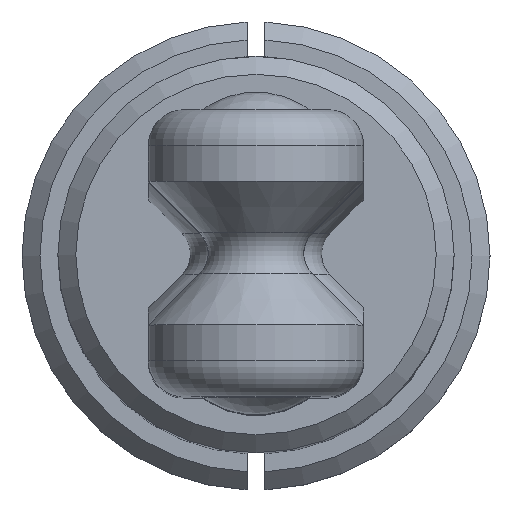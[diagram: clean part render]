
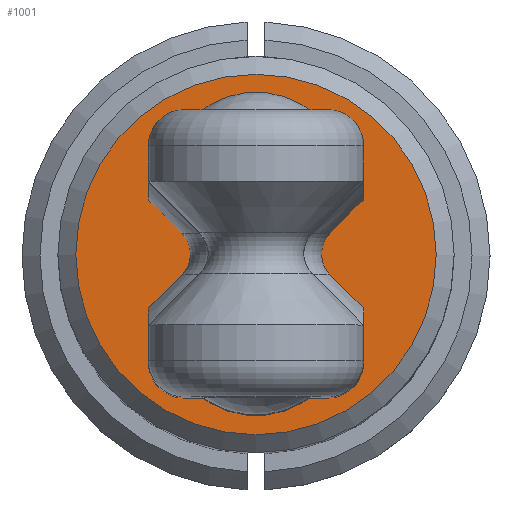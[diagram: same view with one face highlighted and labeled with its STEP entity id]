
A CAD part, top view. The second image highlights one B-rep face of the part: STEP entity #1001.
In plain terms, the highlighted planar face has unit normal (0, 0, 1).
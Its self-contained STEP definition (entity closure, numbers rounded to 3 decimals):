
#15=FACE_BOUND('',#308,.T.);
#87=LINE('',#1651,#155);
#88=LINE('',#1653,#156);
#89=LINE('',#1657,#157);
#90=LINE('',#1661,#158);
#91=LINE('',#1663,#159);
#92=LINE('',#1667,#160);
#93=LINE('',#1669,#161);
#94=LINE('',#1673,#162);
#95=LINE('',#1677,#163);
#96=LINE('',#1678,#164);
#155=VECTOR('',#1291,10.);
#156=VECTOR('',#1292,10.);
#157=VECTOR('',#1295,10.);
#158=VECTOR('',#1298,10.);
#159=VECTOR('',#1299,10.);
#160=VECTOR('',#1302,10.);
#161=VECTOR('',#1303,10.);
#162=VECTOR('',#1306,10.);
#163=VECTOR('',#1309,10.);
#164=VECTOR('',#1310,10.);
#206=PLANE('',#1103);
#244=FACE_OUTER_BOUND('',#307,.T.);
#307=EDGE_LOOP('',(#764));
#308=EDGE_LOOP('',(#765,#766,#767,#768,#769,#770,#771,#772,#773,#774,#775,
#776,#777,#778,#779,#780));
#379=CIRCLE('',#1102,5.02);
#380=CIRCLE('',#1104,0.8);
#381=CIRCLE('',#1105,1.);
#382=CIRCLE('',#1106,1.);
#383=CIRCLE('',#1107,0.8);
#384=CIRCLE('',#1108,1.);
#385=CIRCLE('',#1109,1.);
#468=VERTEX_POINT('',#1643);
#469=VERTEX_POINT('',#1647);
#470=VERTEX_POINT('',#1648);
#471=VERTEX_POINT('',#1650);
#472=VERTEX_POINT('',#1652);
#473=VERTEX_POINT('',#1654);
#474=VERTEX_POINT('',#1656);
#475=VERTEX_POINT('',#1658);
#476=VERTEX_POINT('',#1660);
#477=VERTEX_POINT('',#1662);
#478=VERTEX_POINT('',#1664);
#479=VERTEX_POINT('',#1666);
#480=VERTEX_POINT('',#1668);
#481=VERTEX_POINT('',#1670);
#482=VERTEX_POINT('',#1672);
#483=VERTEX_POINT('',#1674);
#484=VERTEX_POINT('',#1676);
#579=EDGE_CURVE('',#468,#468,#379,.T.);
#581=EDGE_CURVE('',#469,#470,#380,.T.);
#582=EDGE_CURVE('',#470,#471,#87,.T.);
#583=EDGE_CURVE('',#471,#472,#88,.T.);
#584=EDGE_CURVE('',#473,#472,#381,.F.);
#585=EDGE_CURVE('',#473,#474,#89,.T.);
#586=EDGE_CURVE('',#475,#474,#382,.F.);
#587=EDGE_CURVE('',#475,#476,#90,.T.);
#588=EDGE_CURVE('',#476,#477,#91,.T.);
#589=EDGE_CURVE('',#477,#478,#383,.T.);
#590=EDGE_CURVE('',#478,#479,#92,.T.);
#591=EDGE_CURVE('',#479,#480,#93,.T.);
#592=EDGE_CURVE('',#481,#480,#384,.F.);
#593=EDGE_CURVE('',#481,#482,#94,.T.);
#594=EDGE_CURVE('',#483,#482,#385,.F.);
#595=EDGE_CURVE('',#483,#484,#95,.T.);
#596=EDGE_CURVE('',#484,#469,#96,.T.);
#764=ORIENTED_EDGE('',*,*,#579,.F.);
#765=ORIENTED_EDGE('',*,*,#581,.T.);
#766=ORIENTED_EDGE('',*,*,#582,.T.);
#767=ORIENTED_EDGE('',*,*,#583,.T.);
#768=ORIENTED_EDGE('',*,*,#584,.F.);
#769=ORIENTED_EDGE('',*,*,#585,.T.);
#770=ORIENTED_EDGE('',*,*,#586,.F.);
#771=ORIENTED_EDGE('',*,*,#587,.T.);
#772=ORIENTED_EDGE('',*,*,#588,.T.);
#773=ORIENTED_EDGE('',*,*,#589,.T.);
#774=ORIENTED_EDGE('',*,*,#590,.T.);
#775=ORIENTED_EDGE('',*,*,#591,.T.);
#776=ORIENTED_EDGE('',*,*,#592,.F.);
#777=ORIENTED_EDGE('',*,*,#593,.T.);
#778=ORIENTED_EDGE('',*,*,#594,.F.);
#779=ORIENTED_EDGE('',*,*,#595,.T.);
#780=ORIENTED_EDGE('',*,*,#596,.T.);
#1001=ADVANCED_FACE('',(#244,#15),#206,.T.);
#1102=AXIS2_PLACEMENT_3D('',#1644,#1284,#1285);
#1103=AXIS2_PLACEMENT_3D('',#1646,#1287,#1288);
#1104=AXIS2_PLACEMENT_3D('',#1649,#1289,#1290);
#1105=AXIS2_PLACEMENT_3D('',#1655,#1293,#1294);
#1106=AXIS2_PLACEMENT_3D('',#1659,#1296,#1297);
#1107=AXIS2_PLACEMENT_3D('',#1665,#1300,#1301);
#1108=AXIS2_PLACEMENT_3D('',#1671,#1304,#1305);
#1109=AXIS2_PLACEMENT_3D('',#1675,#1307,#1308);
#1284=DIRECTION('center_axis',(0.,0.,-1.));
#1285=DIRECTION('ref_axis',(1.,0.,0.));
#1287=DIRECTION('center_axis',(0.,0.,1.));
#1288=DIRECTION('ref_axis',(1.,0.,0.));
#1289=DIRECTION('center_axis',(0.,0.,1.));
#1290=DIRECTION('ref_axis',(-1.,0.,0.));
#1291=DIRECTION('',(0.707,-0.707,0.));
#1292=DIRECTION('',(0.,-1.,0.));
#1293=DIRECTION('center_axis',(0.,0.,-1.));
#1294=DIRECTION('ref_axis',(0.707,-0.707,0.));
#1295=DIRECTION('',(-1.,0.,0.));
#1296=DIRECTION('center_axis',(0.,0.,-1.));
#1297=DIRECTION('ref_axis',(-0.707,-0.707,0.));
#1298=DIRECTION('',(0.,1.,0.));
#1299=DIRECTION('',(0.707,0.707,0.));
#1300=DIRECTION('center_axis',(0.,0.,1.));
#1301=DIRECTION('ref_axis',(1.,0.,0.));
#1302=DIRECTION('',(-0.707,0.707,0.));
#1303=DIRECTION('',(0.,1.,0.));
#1304=DIRECTION('center_axis',(0.,0.,-1.));
#1305=DIRECTION('ref_axis',(-0.707,0.707,0.));
#1306=DIRECTION('',(1.,0.,0.));
#1307=DIRECTION('center_axis',(0.,0.,-1.));
#1308=DIRECTION('ref_axis',(0.707,0.707,0.));
#1309=DIRECTION('',(0.,-1.,0.));
#1310=DIRECTION('',(-0.707,-0.707,0.));
#1643=CARTESIAN_POINT('',(-5.02,0.,25.));
#1644=CARTESIAN_POINT('Origin',(0.,0.,25.));
#1646=CARTESIAN_POINT('Origin',(0.,0.,25.));
#1647=CARTESIAN_POINT('',(1.566,0.566,25.));
#1648=CARTESIAN_POINT('',(1.566,-0.566,25.));
#1649=CARTESIAN_POINT('Origin',(2.131,0.,25.));
#1650=CARTESIAN_POINT('',(3.,-2.,25.));
#1651=CARTESIAN_POINT('',(1.25,-0.25,25.));
#1652=CARTESIAN_POINT('',(3.,-3.,25.));
#1653=CARTESIAN_POINT('',(3.,0.,25.));
#1654=CARTESIAN_POINT('',(2.,-4.,25.));
#1655=CARTESIAN_POINT('Origin',(2.,-3.,25.));
#1656=CARTESIAN_POINT('',(-2.,-4.,25.));
#1657=CARTESIAN_POINT('',(0.,-4.,25.));
#1658=CARTESIAN_POINT('',(-3.,-3.,25.));
#1659=CARTESIAN_POINT('Origin',(-2.,-3.,25.));
#1660=CARTESIAN_POINT('',(-3.,-2.,25.));
#1661=CARTESIAN_POINT('',(-3.,0.,25.));
#1662=CARTESIAN_POINT('',(-1.566,-0.566,25.));
#1663=CARTESIAN_POINT('',(-1.25,-0.25,25.));
#1664=CARTESIAN_POINT('',(-1.566,0.566,25.));
#1665=CARTESIAN_POINT('Origin',(-2.131,0.,25.));
#1666=CARTESIAN_POINT('',(-3.,2.,25.));
#1667=CARTESIAN_POINT('',(-1.25,0.25,25.));
#1668=CARTESIAN_POINT('',(-3.,3.,25.));
#1669=CARTESIAN_POINT('',(-3.,0.,25.));
#1670=CARTESIAN_POINT('',(-2.,4.,25.));
#1671=CARTESIAN_POINT('Origin',(-2.,3.,25.));
#1672=CARTESIAN_POINT('',(2.,4.,25.));
#1673=CARTESIAN_POINT('',(0.,4.,25.));
#1674=CARTESIAN_POINT('',(3.,3.,25.));
#1675=CARTESIAN_POINT('Origin',(2.,3.,25.));
#1676=CARTESIAN_POINT('',(3.,2.,25.));
#1677=CARTESIAN_POINT('',(3.,0.,25.));
#1678=CARTESIAN_POINT('',(1.25,0.25,25.));
